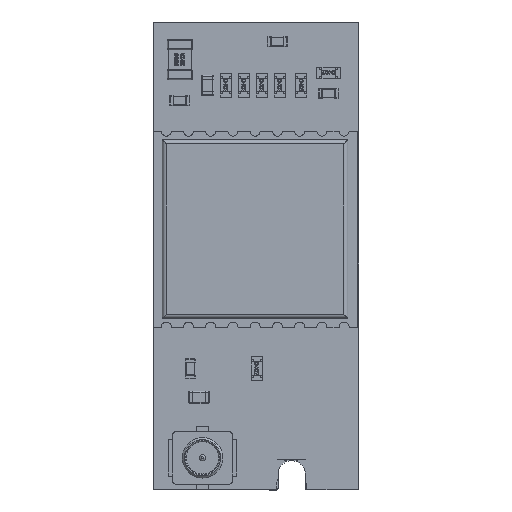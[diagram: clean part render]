
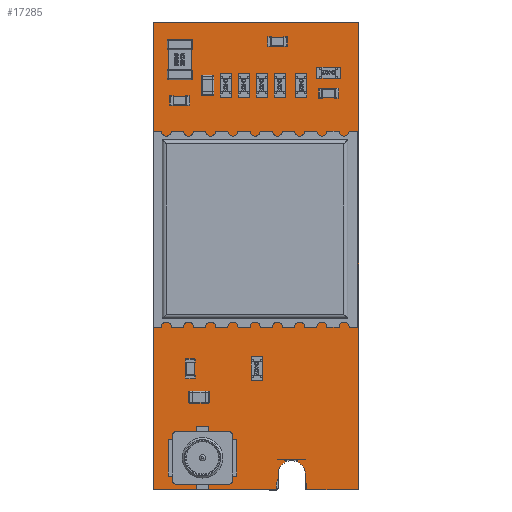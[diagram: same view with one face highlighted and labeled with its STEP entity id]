
A CAD part, top view. The second image highlights one B-rep face of the part: STEP entity #17285.
In plain terms, the highlighted planar face has unit normal (0, 0, 1).
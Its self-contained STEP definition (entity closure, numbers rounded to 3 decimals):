
#898=FACE_BOUND('',#2596,.T.);
#940=PLANE('',#18518);
#1585=FACE_OUTER_BOUND('',#2595,.T.);
#2595=EDGE_LOOP('',(#12034,#12035,#12036,#12037,#12038,#12039,#12040,#12041,
#12042,#12043,#12044,#12045,#12046,#12047,#12048,#12049,#12050,#12051,#12052,
#12053));
#2596=EDGE_LOOP('',(#12054));
#3615=CIRCLE('',#18474,0.079);
#3616=CIRCLE('',#18477,1.45);
#3619=CIRCLE('',#18482,0.673);
#3621=CIRCLE('',#18485,1.45);
#3623=CIRCLE('',#18489,1.45);
#3625=CIRCLE('',#18492,0.673);
#3626=CIRCLE('',#18496,1.45);
#3629=CIRCLE('',#18500,0.079);
#3631=CIRCLE('',#18504,0.079);
#3633=CIRCLE('',#18508,0.079);
#3635=CIRCLE('',#18512,0.079);
#3636=CIRCLE('',#18515,1.41);
#4023=LINE('',#24562,#5878);
#4027=LINE('',#24574,#5882);
#4032=LINE('',#24592,#5887);
#4037=LINE('',#24610,#5892);
#4040=LINE('',#24616,#5895);
#4045=LINE('',#24634,#5900);
#4049=LINE('',#24646,#5904);
#4053=LINE('',#24658,#5908);
#4056=LINE('',#24667,#5911);
#5878=VECTOR('',#19895,1.);
#5882=VECTOR('',#19907,1.);
#5887=VECTOR('',#19926,1.);
#5892=VECTOR('',#19945,1.);
#5895=VECTOR('',#19950,1.);
#5900=VECTOR('',#19969,1.);
#5904=VECTOR('',#19981,1.);
#5908=VECTOR('',#19993,1.);
#5911=VECTOR('',#20004,1.);
#7730=VERTEX_POINT('',#24550);
#7732=VERTEX_POINT('',#24554);
#7734=VERTEX_POINT('',#24560);
#7736=VERTEX_POINT('',#24565);
#7738=VERTEX_POINT('',#24572);
#7740=VERTEX_POINT('',#24578);
#7742=VERTEX_POINT('',#24584);
#7744=VERTEX_POINT('',#24590);
#7746=VERTEX_POINT('',#24596);
#7748=VERTEX_POINT('',#24602);
#7750=VERTEX_POINT('',#24608);
#7752=VERTEX_POINT('',#24614);
#7754=VERTEX_POINT('',#24619);
#7756=VERTEX_POINT('',#24626);
#7758=VERTEX_POINT('',#24632);
#7760=VERTEX_POINT('',#24638);
#7762=VERTEX_POINT('',#24644);
#7764=VERTEX_POINT('',#24650);
#7766=VERTEX_POINT('',#24656);
#7768=VERTEX_POINT('',#24662);
#7769=VERTEX_POINT('',#24669);
#9362=EDGE_CURVE('',#7730,#7732,#3615,.T.);
#9365=EDGE_CURVE('',#7732,#7734,#4023,.T.);
#9367=EDGE_CURVE('',#7736,#7734,#3616,.T.);
#9371=EDGE_CURVE('',#7736,#7738,#4027,.T.);
#9374=EDGE_CURVE('',#7738,#7740,#3619,.T.);
#9377=EDGE_CURVE('',#7740,#7742,#3621,.T.);
#9380=EDGE_CURVE('',#7742,#7744,#4032,.T.);
#9383=EDGE_CURVE('',#7744,#7746,#3623,.T.);
#9386=EDGE_CURVE('',#7746,#7748,#3625,.T.);
#9389=EDGE_CURVE('',#7748,#7750,#4037,.T.);
#9392=EDGE_CURVE('',#7750,#7752,#4040,.T.);
#9394=EDGE_CURVE('',#7754,#7752,#3626,.T.);
#9398=EDGE_CURVE('',#7754,#7756,#3629,.T.);
#9401=EDGE_CURVE('',#7756,#7758,#4045,.T.);
#9404=EDGE_CURVE('',#7758,#7760,#3631,.T.);
#9407=EDGE_CURVE('',#7760,#7762,#4049,.T.);
#9410=EDGE_CURVE('',#7762,#7764,#3633,.T.);
#9413=EDGE_CURVE('',#7764,#7766,#4053,.T.);
#9416=EDGE_CURVE('',#7766,#7768,#3635,.T.);
#9418=EDGE_CURVE('',#7768,#7730,#4056,.T.);
#9419=EDGE_CURVE('',#7769,#7769,#3636,.T.);
#12034=ORIENTED_EDGE('',*,*,#9362,.T.);
#12035=ORIENTED_EDGE('',*,*,#9365,.T.);
#12036=ORIENTED_EDGE('',*,*,#9367,.F.);
#12037=ORIENTED_EDGE('',*,*,#9371,.T.);
#12038=ORIENTED_EDGE('',*,*,#9374,.T.);
#12039=ORIENTED_EDGE('',*,*,#9377,.T.);
#12040=ORIENTED_EDGE('',*,*,#9380,.T.);
#12041=ORIENTED_EDGE('',*,*,#9383,.T.);
#12042=ORIENTED_EDGE('',*,*,#9386,.T.);
#12043=ORIENTED_EDGE('',*,*,#9389,.T.);
#12044=ORIENTED_EDGE('',*,*,#9392,.T.);
#12045=ORIENTED_EDGE('',*,*,#9394,.F.);
#12046=ORIENTED_EDGE('',*,*,#9398,.T.);
#12047=ORIENTED_EDGE('',*,*,#9401,.T.);
#12048=ORIENTED_EDGE('',*,*,#9404,.T.);
#12049=ORIENTED_EDGE('',*,*,#9407,.T.);
#12050=ORIENTED_EDGE('',*,*,#9410,.T.);
#12051=ORIENTED_EDGE('',*,*,#9413,.T.);
#12052=ORIENTED_EDGE('',*,*,#9416,.T.);
#12053=ORIENTED_EDGE('',*,*,#9418,.T.);
#12054=ORIENTED_EDGE('',*,*,#9419,.F.);
#17285=ADVANCED_FACE('',(#1585,#898),#940,.F.);
#18474=AXIS2_PLACEMENT_3D('',#24556,#19889,#19890);
#18477=AXIS2_PLACEMENT_3D('',#24567,#19899,#19900);
#18482=AXIS2_PLACEMENT_3D('',#24580,#19913,#19914);
#18485=AXIS2_PLACEMENT_3D('',#24586,#19920,#19921);
#18489=AXIS2_PLACEMENT_3D('',#24598,#19932,#19933);
#18492=AXIS2_PLACEMENT_3D('',#24604,#19939,#19940);
#18496=AXIS2_PLACEMENT_3D('',#24621,#19954,#19955);
#18500=AXIS2_PLACEMENT_3D('',#24628,#19963,#19964);
#18504=AXIS2_PLACEMENT_3D('',#24640,#19975,#19976);
#18508=AXIS2_PLACEMENT_3D('',#24652,#19987,#19988);
#18512=AXIS2_PLACEMENT_3D('',#24664,#19999,#20000);
#18515=AXIS2_PLACEMENT_3D('',#24670,#20007,#20008);
#18518=AXIS2_PLACEMENT_3D('',#24675,#20014,#20015);
#19889=DIRECTION('center_axis',(0.,0.,1.));
#19890=DIRECTION('ref_axis',(-1.,-0.02,0.));
#19895=DIRECTION('',(1.,0.,0.));
#19899=DIRECTION('center_axis',(0.,0.,1.));
#19900=DIRECTION('ref_axis',(0.,1.,0.));
#19907=DIRECTION('',(0.,1.,0.));
#19913=DIRECTION('center_axis',(0.,0.,-1.));
#19914=DIRECTION('ref_axis',(-1.,0.,0.));
#19920=DIRECTION('center_axis',(0.,0.,1.));
#19921=DIRECTION('ref_axis',(0.,-1.,0.));
#19926=DIRECTION('',(1.,0.,0.));
#19932=DIRECTION('center_axis',(0.,0.,1.));
#19933=DIRECTION('ref_axis',(0.,1.,0.));
#19939=DIRECTION('center_axis',(0.,0.,-1.));
#19940=DIRECTION('ref_axis',(-1.,0.,0.));
#19945=DIRECTION('',(0.,-1.,0.));
#19950=DIRECTION('',(0.,-1.,0.));
#19954=DIRECTION('center_axis',(0.,0.,1.));
#19955=DIRECTION('ref_axis',(0.,-1.,0.));
#19963=DIRECTION('center_axis',(0.,0.,1.));
#19964=DIRECTION('ref_axis',(-1.,-0.02,0.));
#19969=DIRECTION('',(1.,0.,0.));
#19975=DIRECTION('center_axis',(0.,0.,1.));
#19976=DIRECTION('ref_axis',(0.02,-1.,0.));
#19981=DIRECTION('',(0.,1.,0.));
#19987=DIRECTION('center_axis',(0.,0.,1.));
#19988=DIRECTION('ref_axis',(1.,0.02,0.));
#19993=DIRECTION('',(-1.,0.,0.));
#19999=DIRECTION('center_axis',(0.,0.,1.));
#20000=DIRECTION('ref_axis',(-0.02,1.,0.));
#20004=DIRECTION('',(0.,-1.,0.));
#20007=DIRECTION('center_axis',(0.,0.,1.));
#20008=DIRECTION('ref_axis',(1.,0.,0.));
#20014=DIRECTION('center_axis',(0.,0.,-1.));
#20015=DIRECTION('ref_axis',(-1.,0.,0.));
#24550=CARTESIAN_POINT('',(-0.077,0.,0.752));
#24554=CARTESIAN_POINT('',(0.,-0.077,0.752));
#24556=CARTESIAN_POINT('Origin',(0.002,0.002,0.752));
#24560=CARTESIAN_POINT('',(5.989,-0.077,0.752));
#24562=CARTESIAN_POINT('',(0.,-0.077,0.752));
#24565=CARTESIAN_POINT('',(6.077,0.502,0.752));
#24567=CARTESIAN_POINT('Origin',(7.437,0.,0.752));
#24572=CARTESIAN_POINT('',(6.077,0.7,0.752));
#24574=CARTESIAN_POINT('',(6.077,0.,0.752));
#24578=CARTESIAN_POINT('',(6.57,1.349,0.752));
#24580=CARTESIAN_POINT('Origin',(6.75,0.7,0.752));
#24584=CARTESIAN_POINT('',(6.037,1.45,0.752));
#24586=CARTESIAN_POINT('Origin',(6.037,0.,0.752));
#24590=CARTESIAN_POINT('',(7.437,1.45,0.752));
#24592=CARTESIAN_POINT('',(6.037,1.45,0.752));
#24596=CARTESIAN_POINT('',(6.915,1.353,0.752));
#24598=CARTESIAN_POINT('Origin',(7.437,0.,0.752));
#24602=CARTESIAN_POINT('',(7.423,0.702,0.752));
#24604=CARTESIAN_POINT('Origin',(6.75,0.7,0.752));
#24608=CARTESIAN_POINT('',(7.423,0.7,0.752));
#24610=CARTESIAN_POINT('',(7.423,0.702,0.752));
#24614=CARTESIAN_POINT('',(7.423,0.427,0.752));
#24616=CARTESIAN_POINT('',(7.423,0.7,0.752));
#24619=CARTESIAN_POINT('',(7.485,-0.075,0.752));
#24621=CARTESIAN_POINT('Origin',(6.037,0.,0.752));
#24626=CARTESIAN_POINT('',(7.5,-0.077,0.752));
#24628=CARTESIAN_POINT('Origin',(7.502,0.002,0.752));
#24632=CARTESIAN_POINT('',(10.,-0.077,0.752));
#24634=CARTESIAN_POINT('',(7.5,-0.077,0.752));
#24638=CARTESIAN_POINT('',(10.077,0.,0.752));
#24640=CARTESIAN_POINT('Origin',(9.998,0.002,0.752));
#24644=CARTESIAN_POINT('',(10.077,23.,0.752));
#24646=CARTESIAN_POINT('',(10.077,0.,0.752));
#24650=CARTESIAN_POINT('',(10.,23.077,0.752));
#24652=CARTESIAN_POINT('Origin',(9.998,22.998,0.752));
#24656=CARTESIAN_POINT('',(0.,23.077,0.752));
#24658=CARTESIAN_POINT('',(10.,23.077,0.752));
#24662=CARTESIAN_POINT('',(-0.077,23.,0.752));
#24664=CARTESIAN_POINT('Origin',(0.002,22.998,0.752));
#24667=CARTESIAN_POINT('',(-0.077,23.,0.752));
#24669=CARTESIAN_POINT('',(5.34,13.7,0.752));
#24670=CARTESIAN_POINT('Origin',(6.75,13.7,0.752));
#24675=CARTESIAN_POINT('Origin',(-0.077,0.,0.752));
